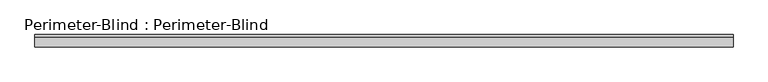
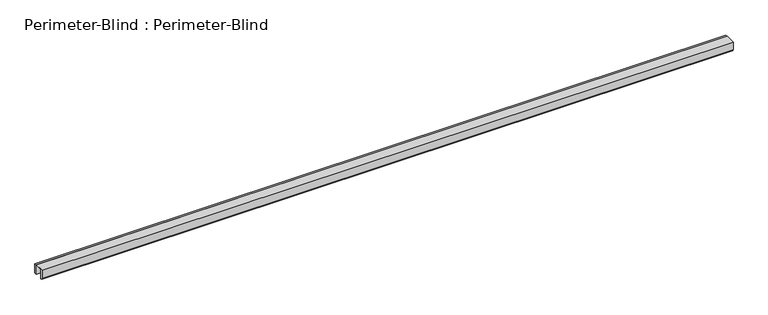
"""IFC4 building model written with IfcOpenShell, lengths in millimetres: proxy geometry, Perimeter-Blind : Perimeter-Blind."""

import ifcopenshell
import ifcopenshell.guid

model = None  # the IFC model being written
_history = None  # IfcOwnerHistory: only IFC2X3 demands one
_inside = {}  # id of a spatial element -> (the spatial element, [elements in it])
_under = {}  # id of a project, library or spatial element -> (it, [spatial elements below it])
_declared = {}  # id of a project -> (the project, [libraries it declares])
_typed = {}  # id of a type object -> (the type object, [elements of that type])
_made_of = {}  # id of a material, layer set ... -> (it, [elements and type objects made of it])


def new_model(schema):
    """Start an empty IFC model of exactly this schema.

    Asked for "IFC4X3", IfcOpenShell would pick the latest addendum, in which some entities
    have other attributes; the version numbers below select the first issue.
    IFC2X3 requires an IfcOwnerHistory on every rooted entity: one is made here for all.
    """
    global model, _history
    if schema == "IFC4X3":
        model = ifcopenshell.file(schema_version=(4, 3, 0, 0))
    else:
        model = ifcopenshell.file(schema=schema)
    _inside.clear()
    _under.clear()
    _declared.clear()
    _typed.clear()
    _made_of.clear()
    _history = None
    if model.schema == "IFC2X3":
        org = make("IfcOrganization", Name="unknown")
        user = make(
            "IfcPersonAndOrganization",
            ThePerson=make("IfcPerson", FamilyName="unknown"),
            TheOrganization=org,
        )
        app = make(
            "IfcApplication",
            ApplicationDeveloper=org,
            Version="unknown",
            ApplicationFullName="unknown",
            ApplicationIdentifier="unknown",
        )
        _history = make(
            "IfcOwnerHistory",
            OwningUser=user,
            OwningApplication=app,
            ChangeAction="ADDED",
            CreationDate=0,
        )
    return model


def make(cls, **values):
    """One entity of the class cls with the attributes given. An attribute that is None is left unset."""
    return model.create_entity(
        cls, **{name: value for name, value in values.items() if value is not None}
    )


def rooted(cls, **values):
    """An entity with a GlobalId (a new one), such as an element, a storey or a relation."""
    return make(cls, GlobalId=ifcopenshell.guid.new(), OwnerHistory=_history, **values)


def si_unit(unit_type, name, prefix=None):
    """IfcSIUnit, for example si_unit("LENGTHUNIT", "METRE", prefix="MILLI")."""
    return make("IfcSIUnit", UnitType=unit_type, Prefix=prefix, Name=name)


def assignment(units):
    """IfcUnitAssignment: the units of a project."""
    return None if units is None else make("IfcUnitAssignment", Units=units)


def point(xyz):
    """IfcCartesianPoint."""
    return None if xyz is None else make("IfcCartesianPoint", Coordinates=xyz)


def direction(xyz):
    """IfcDirection."""
    return None if xyz is None else make("IfcDirection", DirectionRatios=xyz)


def frame(location, z_axis=None, x_axis=None):
    """IfcAxis2Placement3D, a coordinate frame: its origin and axes. An axis left out is left unset."""
    return make(
        "IfcAxis2Placement3D",
        Location=point(location),
        Axis=direction(z_axis),
        RefDirection=direction(x_axis),
    )


def origin():
    """The frame at (0, 0, 0) with its axes left unset."""
    return frame((0.0, 0.0, 0.0))


def place(relative_to, where):
    """IfcLocalPlacement: puts the frame where relative to a parent placement (None: the world)."""
    return make(
        "IfcLocalPlacement", PlacementRelTo=relative_to, RelativePlacement=where
    )


def context(
    kind, dimensions, precision=None, world=None, true_north=None, identifier=None
):
    """IfcGeometricRepresentationContext, for example the 3D "Model" context."""
    return make(
        "IfcGeometricRepresentationContext",
        ContextIdentifier=identifier,
        ContextType=kind,
        CoordinateSpaceDimension=dimensions,
        Precision=precision,
        WorldCoordinateSystem=world,
        TrueNorth=true_north,
    )


def project(units=None, contexts=None):
    """IfcProject with its units and contexts."""
    return rooted(
        "IfcProject",
        Name="project",
        RepresentationContexts=contexts,
        UnitsInContext=assignment(units),
    )


def spatial(cls, under=None, at=None, **own):
    """A site, building, storey or space (cls), placed at a placement, below another one or the project."""
    s = rooted(cls, ObjectPlacement=at, **own)
    if under is not None:
        _under.setdefault(under.id(), (under, []))[1].append(s)
    return s


def polyline(points):
    """IfcPolyline through the points."""
    return make("IfcPolyline", Points=[point(p) for p in points])


def outline(outer, holes=None, kind="AREA"):
    """IfcArbitraryClosedProfileDef: a profile drawn as a closed curve; with holes, ...WithVoids."""
    if holes is None:
        return make("IfcArbitraryClosedProfileDef", ProfileType=kind, OuterCurve=outer)
    return make(
        "IfcArbitraryProfileDefWithVoids",
        ProfileType=kind,
        OuterCurve=outer,
        InnerCurves=holes,
    )


def extrude(swept, where, along, depth):
    """IfcExtrudedAreaSolid: the profile swept, set in the frame where, extruded along a direction by depth."""
    return make(
        "IfcExtrudedAreaSolid",
        SweptArea=swept,
        Position=where,
        ExtrudedDirection=direction(along),
        Depth=depth,
    )


def shape(context_of_items, identifier, shape_type, items):
    """IfcShapeRepresentation: the items that make up one representation, for example the "Body"."""
    return make(
        "IfcShapeRepresentation",
        ContextOfItems=context_of_items,
        RepresentationIdentifier=identifier,
        RepresentationType=shape_type,
        Items=items,
    )


def source(mapping_origin, context_of_items, identifier, shape_type, items):
    """IfcRepresentationMap: a shape defined once, which mapped items show again and again."""
    return make(
        "IfcRepresentationMap",
        MappingOrigin=mapping_origin,
        MappedRepresentation=shape(context_of_items, identifier, shape_type, items),
    )


def transform(
    local_origin,
    x_axis=None,
    y_axis=None,
    z_axis=None,
    scale=None,
    scale2=None,
    scale3=None,
    uniform=True,
):
    """IfcCartesianTransformationOperator3D, or its non-uniform kind. x_axis, y_axis, z_axis: its Axis1, 2, 3."""
    if uniform:
        return make(
            "IfcCartesianTransformationOperator3D",
            Axis1=direction(x_axis),
            Axis2=direction(y_axis),
            LocalOrigin=point(local_origin),
            Scale=scale,
            Axis3=direction(z_axis),
        )
    return make(
        "IfcCartesianTransformationOperator3DnonUniform",
        Axis1=direction(x_axis),
        Axis2=direction(y_axis),
        LocalOrigin=point(local_origin),
        Scale=scale,
        Axis3=direction(z_axis),
        Scale2=scale2,
        Scale3=scale3,
    )


def mapped(mapping_source, mapping_target):
    """IfcMappedItem: shows the shape of a source again, moved by a transform."""
    return make(
        "IfcMappedItem", MappingSource=mapping_source, MappingTarget=mapping_target
    )


def made_of(thing, what):
    """Note that an element or type object is made of a material, layer set ...; save() writes the relation."""
    if what is not None:
        _made_of.setdefault(what.id(), (what, []))[1].append(thing)
    return thing


def element(
    cls,
    number,
    at=None,
    inside=None,
    cuts=None,
    type_object=None,
    material=None,
    context=None,
    identifier="Body",
    shape_type=None,
    held_by="IfcProductDefinitionShape",
    body=None,
    shapes=None,
    **own,
):
    """One element of the class cls, such as IfcWall. Its Tag is "e" and its number.

    at: its placement. inside: the storey or other place that contains it. cuts: it is an
    opening in that element (IfcRelVoidsElement). A single representation is given by context,
    identifier, shape_type and body (its items); several are given by shapes. held_by: the class
    of the entity that holds the representations. save() writes the other relations.
    """
    e = rooted(cls, Tag="e%d" % number, ObjectPlacement=at, **own)
    if body is not None:
        shapes = [shape(context, identifier, shape_type, body)]
    if shapes is not None:
        e.Representation = make(held_by, Representations=shapes)
    if inside is not None:
        _inside.setdefault(inside.id(), (inside, []))[1].append(e)
    if cuts is not None:
        rooted(
            "IfcRelVoidsElement", RelatingBuildingElement=cuts, RelatedOpeningElement=e
        )
    if type_object is not None:
        _typed.setdefault(type_object.id(), (type_object, []))[1].append(e)
    return made_of(e, material)


def aggregate(whole, parts):
    """IfcRelAggregates: a whole, such as a stair, and the parts it consists of."""
    return rooted("IfcRelAggregates", RelatingObject=whole, RelatedObjects=parts)


def save(model, path):
    """Write the relations noted so far, then the file.

    IfcRelAggregates (storeys below a building ...), IfcRelContainedInSpatialStructure (elements
    in a storey), IfcRelDefinesByType, IfcRelAssociatesMaterial and IfcRelDeclares: one each for
    every whole, place, type object, material and project.
    """
    for whole, parts in _under.values():
        aggregate(whole, parts)
    for where, things in _inside.values():
        rooted(
            "IfcRelContainedInSpatialStructure",
            RelatedElements=things,
            RelatingStructure=where,
        )
    for kind, things in _typed.values():
        rooted("IfcRelDefinesByType", RelatedObjects=things, RelatingType=kind)
    for what, things in _made_of.values():
        rooted("IfcRelAssociatesMaterial", RelatedObjects=things, RelatingMaterial=what)
    for by, libraries in _declared.values():
        rooted("IfcRelDeclares", RelatingContext=by, RelatedDefinitions=libraries)
    model.write(path)


def perimeter_blind_perimeter_blind_f3f7109a(model_context):
    return source(origin(), model_context, "Body", "SweptSolid", [
        extrude(outline(polyline([(13.4, 4400.0), (13.4, 4425.0), (0.0, 4425.0), (0.0, 4561.6), (160.0, 4561.6), (160.0, 4552.0), (203.4, 4552.0), (203.4, 4400.0), (158.4, 4400.0), (158.4, 4560.0), (33.4, 4560.0), (33.4, 4400.0), (13.4, 4400.0)])), frame((-5653.5006347, 0.0, 0.0), z_axis=(1.0, 0.0, 0.0), x_axis=(0.0, 1.0, 0.0)), (0.0, 0.0, 1.0), 11307.0012694),
    ])


if __name__ == "__main__":
    model = new_model("IFC4")
    model_context = context("Model", 3, world=origin())
    ifc_project = project(units=[si_unit("LENGTHUNIT", "METRE", prefix="MILLI")], contexts=[model_context])
    site = spatial("IfcSite", under=ifc_project)
    building = spatial("IfcBuilding", under=site)
    placement = place(None, origin())
    perimeter_blind_perimeter_blind_shape = perimeter_blind_perimeter_blind_f3f7109a(model_context)
    element("IfcBuildingElementProxy", 1, Name="Perimeter-Blind : Perimeter-Blind", ObjectType="Perimeter-Blind : Perimeter-Blind", at=placement, inside=building, context=model_context, shape_type="MappedRepresentation", body=[
        mapped(perimeter_blind_perimeter_blind_shape, transform((0.0, 0.0, 0.0), x_axis=(1.0, 0.0, 0.0), y_axis=(0.0, 1.0, 0.0), z_axis=(0.0, 0.0, 1.0))),
    ])
    save(model, "model.ifc")
